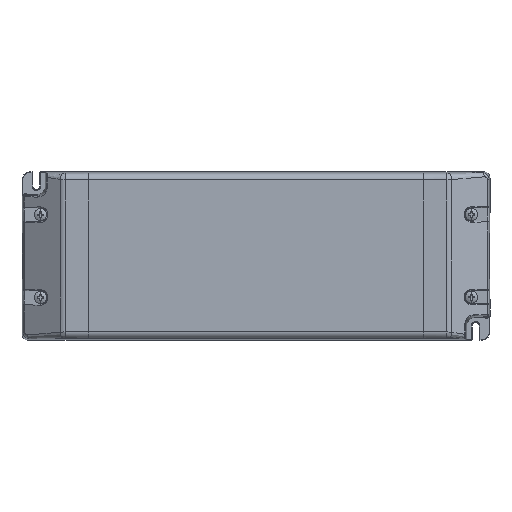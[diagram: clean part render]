
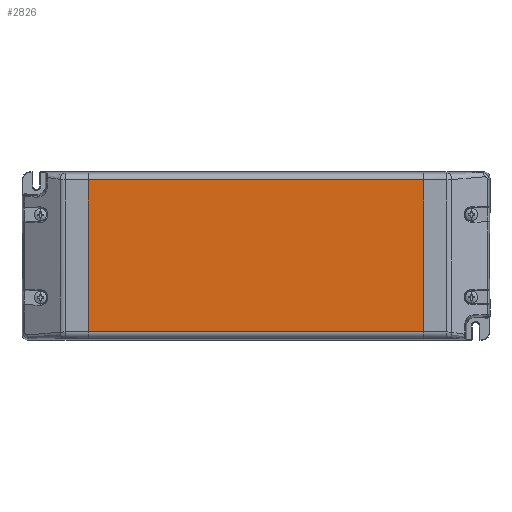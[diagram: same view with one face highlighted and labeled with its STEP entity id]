
A CAD part, top view. The second image highlights one B-rep face of the part: STEP entity #2826.
In plain terms, the highlighted planar face has unit normal (0, 0, 1).
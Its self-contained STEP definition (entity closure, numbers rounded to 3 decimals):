
#739=FACE_OUTER_BOUND('',#5357,.T.);
#2826=ADVANCED_FACE('',(#739),#4283,.T.);
#4283=PLANE('',#27886);
#5357=EDGE_LOOP('',(#12932,#12933,#12934,#12935));
#7079=LINE('',#38409,#9931);
#7080=LINE('',#38413,#9932);
#7081=LINE('',#38415,#9933);
#7082=LINE('',#38417,#9934);
#9931=VECTOR('',#30533,1.);
#9932=VECTOR('',#30538,1.);
#9933=VECTOR('',#30539,1.);
#9934=VECTOR('',#30540,1.);
#12932=ORIENTED_EDGE('',*,*,#23574,.T.);
#12933=ORIENTED_EDGE('',*,*,#23576,.F.);
#12934=ORIENTED_EDGE('',*,*,#23577,.T.);
#12935=ORIENTED_EDGE('',*,*,#23578,.F.);
#20907=VERTEX_POINT('',#38408);
#20908=VERTEX_POINT('',#38410);
#20909=VERTEX_POINT('',#38414);
#20910=VERTEX_POINT('',#38416);
#23574=EDGE_CURVE('',#20908,#20907,#7079,.T.);
#23576=EDGE_CURVE('',#20909,#20907,#7080,.T.);
#23577=EDGE_CURVE('',#20909,#20910,#7081,.T.);
#23578=EDGE_CURVE('',#20908,#20910,#7082,.T.);
#27886=AXIS2_PLACEMENT_3D('',#38418,#30541,#30542);
#30533=DIRECTION('',(1.,0.,0.));
#30538=DIRECTION('',(0.,-1.,0.));
#30539=DIRECTION('',(-1.,0.,0.));
#30540=DIRECTION('',(0.,1.,0.));
#30541=DIRECTION('',(0.,0.,1.));
#30542=DIRECTION('',(1.,0.,0.));
#38408=CARTESIAN_POINT('',(77.1,-34.916,28.95));
#38409=CARTESIAN_POINT('',(14.1,-34.916,28.95));
#38410=CARTESIAN_POINT('',(-76.9,-34.916,28.95));
#38413=CARTESIAN_POINT('',(77.1,6.,28.95));
#38414=CARTESIAN_POINT('',(77.1,34.916,28.95));
#38415=CARTESIAN_POINT('',(14.1,34.916,28.95));
#38416=CARTESIAN_POINT('',(-76.9,34.916,28.95));
#38417=CARTESIAN_POINT('',(-76.9,6.,28.95));
#38418=CARTESIAN_POINT('',(14.1,6.,28.95));
